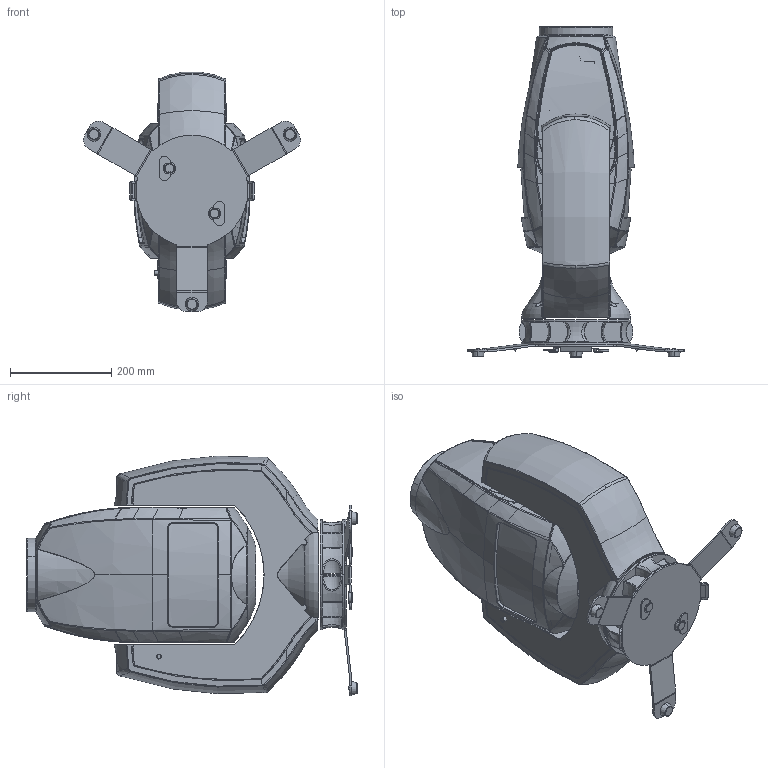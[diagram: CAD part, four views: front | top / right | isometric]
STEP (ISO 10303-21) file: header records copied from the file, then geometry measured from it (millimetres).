
FILE_DESCRIPTION((''),'2;1');
FILE_NAME('GT-1_SCHRUMPF','2016-09-16T',('fw'),(''),'CREO PARAMETRIC BY PTC INC, 2015380','CREO PARAMETRIC BY PTC INC, 2015380','');
FILE_SCHEMA(('AUTOMOTIVE_DESIGN { 1 0 10303 214 1 1 1 1 }'));
Products named in the file (1): GT-1_SCHRUMPF
Bounding box: 428.62 x 651.68 x 473.04 mm (x, y, z)
Surface area: 1170090.7 mm2 (no closed solid volume)
Topology: 0 solids, 114 shells, 796 faces, 3267 edges, 2533 vertices
Faces by surface type: bspline 329, cylinder 134, plane 124, torus 83, cone 63, extrusion 32, sphere 31
Entity records: 75074 total; most frequent: CARTESIAN_POINT 43115, ORIENTED_EDGE 4554, PRESENTATION_STYLE_ASSIGNMENT 3329, STYLED_ITEM 3298, CURVE_STYLE 3242, EDGE_CURVE 3242, DIRECTION 3036, VERTEX_POINT 2531
